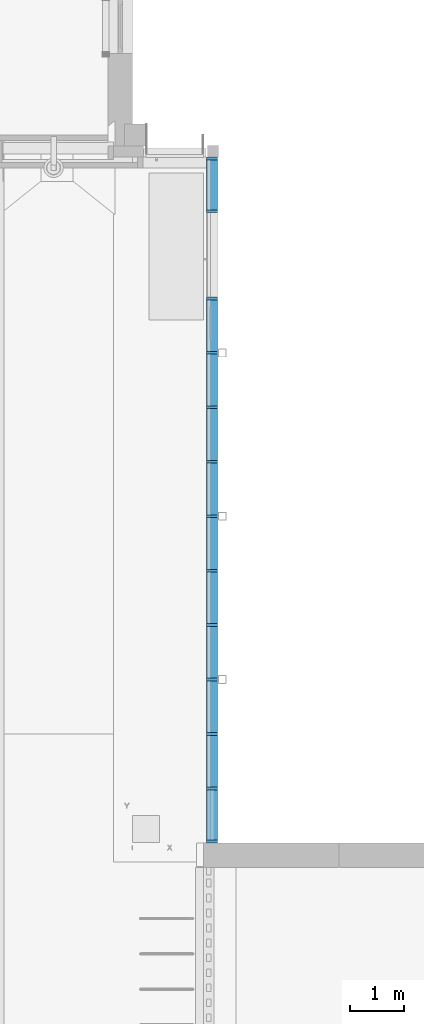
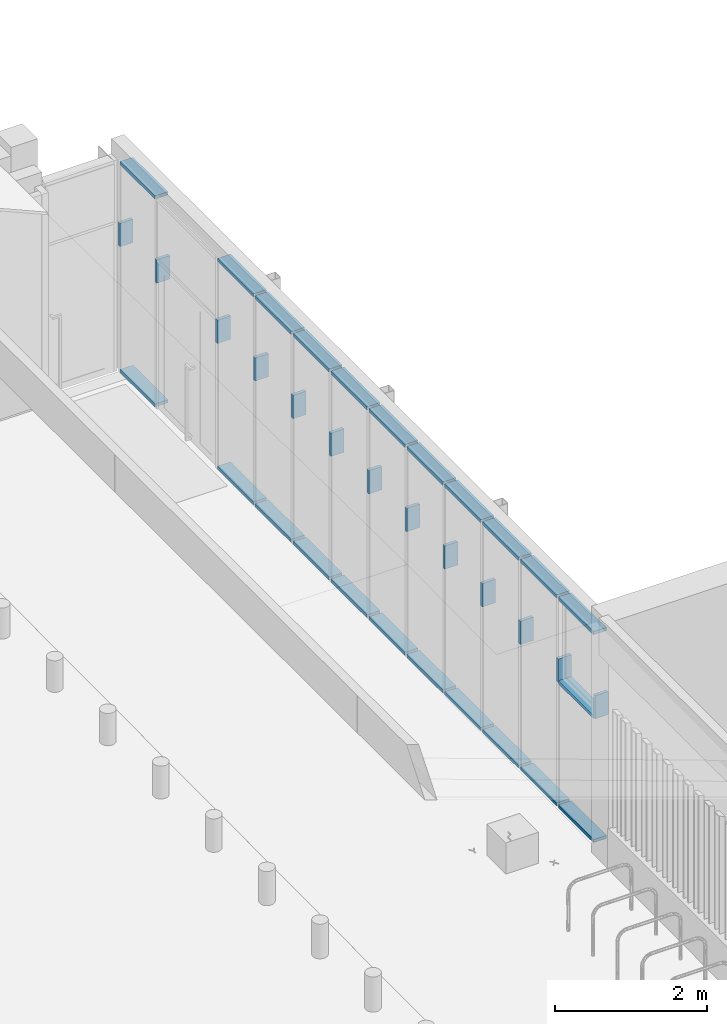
# One storey, part 7 of 77: 36 members, 1 element without a shape of its own.
"""IFC2X3 building model written with IfcOpenShell, lengths in millimetres."""

from ifc_helpers import new_model, entity, si_unit, converted_unit, derived_unit, direction, frame, origin, origin_2d_with_axis, place, context, subcontext, project, spatial, rectangle, extrude, source, transform, mapped, material, type_object, type_shapes, element, aggregate, save


model = new_model("IFC2X3")

# Units and contexts
model_context = context("Model", 3, precision=0.01, world=origin(), true_north=direction((6.12303176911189e-17, 1.0)))
body_context = subcontext(model_context, "Body", "Model", "MODEL_VIEW")
ifc_project = project(units=[si_unit("LENGTHUNIT", "METRE", prefix="MILLI"), si_unit("AREAUNIT", "SQUARE_METRE"), si_unit("VOLUMEUNIT", "CUBIC_METRE"), converted_unit("PLANEANGLEUNIT", "DEGREE", entity("IfcRatioMeasure", 0.0174532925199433), si_unit("PLANEANGLEUNIT", "RADIAN"), dimensions=[0, 0, 0, 0, 0, 0, 0]), si_unit("MASSUNIT", "GRAM", prefix="KILO"), derived_unit("MASSDENSITYUNIT", [(si_unit("MASSUNIT", "GRAM", prefix="KILO"), 1), (si_unit("LENGTHUNIT", "METRE"), -3)]), si_unit("TIMEUNIT", "SECOND"), si_unit("FREQUENCYUNIT", "HERTZ"), si_unit("THERMODYNAMICTEMPERATUREUNIT", "DEGREE_CELSIUS"), derived_unit("THERMALTRANSMITTANCEUNIT", [(si_unit("MASSUNIT", "GRAM", prefix="KILO"), 1), (si_unit("THERMODYNAMICTEMPERATUREUNIT", "KELVIN"), -1), (si_unit("TIMEUNIT", "SECOND"), -3)]), derived_unit("VOLUMETRICFLOWRATEUNIT", [(si_unit("LENGTHUNIT", "METRE"), 3), (si_unit("TIMEUNIT", "SECOND"), -1)]), si_unit("ELECTRICCURRENTUNIT", "AMPERE"), si_unit("ELECTRICVOLTAGEUNIT", "VOLT"), si_unit("POWERUNIT", "WATT"), si_unit("FORCEUNIT", "NEWTON", prefix="KILO"), si_unit("ILLUMINANCEUNIT", "LUX"), si_unit("LUMINOUSFLUXUNIT", "LUMEN"), si_unit("LUMINOUSINTENSITYUNIT", "CANDELA"), derived_unit("USERDEFINED", [(si_unit("MASSUNIT", "GRAM", prefix="KILO"), -1), (si_unit("LENGTHUNIT", "METRE"), -2), (si_unit("TIMEUNIT", "SECOND"), 3), (si_unit("LUMINOUSFLUXUNIT", "LUMEN"), 1)]), derived_unit("LINEARVELOCITYUNIT", [(si_unit("LENGTHUNIT", "METRE"), 1), (si_unit("TIMEUNIT", "SECOND"), -1)]), si_unit("PRESSUREUNIT", "PASCAL"), derived_unit("USERDEFINED", [(si_unit("LENGTHUNIT", "METRE"), -2), (si_unit("MASSUNIT", "GRAM", prefix="KILO"), 1), (si_unit("TIMEUNIT", "SECOND"), -2)])], contexts=[model_context])

# Site, building, storey
site_placement = place(None, origin())
site = spatial("IfcSite", under=ifc_project, at=site_placement, Name="Default", CompositionType="ELEMENT")
building_placement = place(site_placement, origin())
building = spatial("IfcBuilding", under=site, at=building_placement, CompositionType="ELEMENT")
storey_placement = place(building_placement, origin())
storey = spatial("IfcBuildingStorey", under=building, at=storey_placement, Name="1. KORRUS", CompositionType="ELEMENT", Elevation=0.0)

# Curtain wall, members
curtain_wall_type = type_object("IfcCurtainWallType", Name="Curtain Wall:KF01", PredefinedType="NOTDEFINED")
curtain_wall_placement = place(storey_placement, origin())
curtain_wall = element("IfcCurtainWall", 1, at=curtain_wall_placement, inside=storey, type_object=curtain_wall_type, Name="Curtain Wall:KF01", ObjectType="Curtain Wall:KF01")
ifc_material = material(Name="Default New Material-al-profiilid")
member_type_1 = type_object("IfcMemberType", Name="50x200mm", PredefinedType="MEMBER")
shared_shape_1 = source(origin(), body_context, "Body", "SweptSolid", [
    extrude(rectangle(XDim=200.0, YDim=50.0, at=origin_2d_with_axis()), frame((-25.0, 0.0, -920.0), z_axis=(0.0, 0.0, 1.0), x_axis=(0.0, -1.0, 0.0)), (0.0, 0.0, 1.0), 919.999999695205),
])
type_shapes(member_type_1, [shared_shape_1])
member_1_placement = place(storey_placement, frame((1460.00453708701, 12545.0, 3400.0), z_axis=(0.0, 1.0, 0.0), x_axis=(0.0, 0.0, 1.0)))
member_1 = element("IfcMember", 2, at=member_1_placement, type_object=member_type_1, material=ifc_material, Name="Rectangular Mullion:50x200mm", ObjectType="50x200mm", context=body_context, shape_type="MappedRepresentation", body=[
    mapped(shared_shape_1, transform((0.0, 0.0, 0.0), scale=1.0)),
])
member_type_2 = type_object("IfcMemberType", Name="50x200mm", PredefinedType="MEMBER")
shared_shape_2 = source(origin(), body_context, "Body", "SweptSolid", [
    extrude(rectangle(XDim=200.0, YDim=50.0, at=origin_2d_with_axis()), frame((-25.0, 0.0, -925.0), z_axis=(0.0, 0.0, 1.0), x_axis=(0.0, -1.0, 0.0)), (0.0, 0.0, 1.0), 925.000000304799),
])
type_shapes(member_type_2, [shared_shape_2])
member_2_placement = place(storey_placement, frame((1460.004537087, 50.0, 0.0), z_axis=(0.0, -1.0, 0.0), x_axis=(0.0, 0.0, -1.0)))
member_2 = element("IfcMember", 3, at=member_2_placement, type_object=member_type_2, material=ifc_material, Name="Rectangular Mullion:50x200mm", ObjectType="50x200mm", context=body_context, shape_type="MappedRepresentation", body=[
    mapped(shared_shape_2, transform((0.0, 0.0, 0.0), scale=1.0)),
])
member_type_3 = type_object("IfcMemberType", Name="50x200mm", PredefinedType="MEMBER")
shared_shape_3 = source(origin(), body_context, "Body", "SweptSolid", [
    extrude(rectangle(XDim=200.0, YDim=50.0, at=origin_2d_with_axis()), frame((-25.0, 0.0, -950.0), z_axis=(0.0, 0.0, 1.0), x_axis=(0.0, -1.0, 0.0)), (0.0, 0.0, 1.0), 950.0),
])
type_shapes(member_type_3, [shared_shape_3])
member_3_placement = place(storey_placement, frame((1460.004537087, 4025.0, 0.0), z_axis=(0.0, -1.0, 0.0), x_axis=(0.0, 0.0, -1.0)))
member_3 = element("IfcMember", 4, at=member_3_placement, type_object=member_type_3, material=ifc_material, Name="Rectangular Mullion:50x200mm", ObjectType="50x200mm", context=body_context, shape_type="MappedRepresentation", body=[
    mapped(shared_shape_3, transform((0.0, 0.0, 0.0), scale=1.0)),
])
member_4_placement = place(storey_placement, frame((1460.004537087, 5025.0, 0.0), z_axis=(0.0, -1.0, 0.0), x_axis=(0.0, 0.0, -1.0)))
member_4 = element("IfcMember", 5, at=member_4_placement, type_object=member_type_3, material=ifc_material, Name="Rectangular Mullion:50x200mm", ObjectType="50x200mm", context=body_context, shape_type="MappedRepresentation", body=[
    mapped(shared_shape_3, transform((0.0, 0.0, 0.0), scale=1.0)),
])
member_5_placement = place(storey_placement, frame((1460.004537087, 6025.0, 0.0), z_axis=(0.0, -1.0, 0.0), x_axis=(0.0, 0.0, -1.0)))
member_5 = element("IfcMember", 6, at=member_5_placement, type_object=member_type_3, material=ifc_material, Name="Rectangular Mullion:50x200mm", ObjectType="50x200mm", context=body_context, shape_type="MappedRepresentation", body=[
    mapped(shared_shape_3, transform((0.0, 0.0, 0.0), scale=1.0)),
])
member_6_placement = place(storey_placement, frame((1460.004537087, 7025.0, 0.0), z_axis=(0.0, -1.0, 0.0), x_axis=(0.0, 0.0, -1.0)))
member_6 = element("IfcMember", 7, at=member_6_placement, type_object=member_type_3, material=ifc_material, Name="Rectangular Mullion:50x200mm", ObjectType="50x200mm", context=body_context, shape_type="MappedRepresentation", body=[
    mapped(shared_shape_3, transform((0.0, 0.0, 0.0), scale=1.0)),
])
member_7_placement = place(storey_placement, frame((1460.00453708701, 8025.0, 0.0), z_axis=(0.0, -1.0, 0.0), x_axis=(0.0, 0.0, -1.0)))
member_7 = element("IfcMember", 8, at=member_7_placement, type_object=member_type_3, material=ifc_material, Name="Rectangular Mullion:50x200mm", ObjectType="50x200mm", context=body_context, shape_type="MappedRepresentation", body=[
    mapped(shared_shape_3, transform((0.0, 0.0, 0.0), scale=1.0)),
])
member_8_placement = place(storey_placement, frame((1460.00453708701, 9025.0, 0.0), z_axis=(0.0, -1.0, 0.0), x_axis=(0.0, 0.0, -1.0)))
member_8 = element("IfcMember", 9, at=member_8_placement, type_object=member_type_3, material=ifc_material, Name="Rectangular Mullion:50x200mm", ObjectType="50x200mm", context=body_context, shape_type="MappedRepresentation", body=[
    mapped(shared_shape_3, transform((0.0, 0.0, 0.0), scale=1.0)),
])
member_9_placement = place(storey_placement, frame((1460.004537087, 3025.0, 0.0), z_axis=(0.0, -1.0, 0.0), x_axis=(0.0, 0.0, -1.0)))
member_9 = element("IfcMember", 10, at=member_9_placement, type_object=member_type_3, material=ifc_material, Name="Rectangular Mullion:50x200mm", ObjectType="50x200mm", context=body_context, shape_type="MappedRepresentation", body=[
    mapped(shared_shape_3, transform((0.0, 0.0, 0.0), scale=1.0)),
])
member_10_placement = place(storey_placement, frame((1460.004537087, 2025.0, 0.0), z_axis=(0.0, -1.0, 0.0), x_axis=(0.0, 0.0, -1.0)))
member_10 = element("IfcMember", 11, at=member_10_placement, type_object=member_type_3, material=ifc_material, Name="Rectangular Mullion:50x200mm", ObjectType="50x200mm", context=body_context, shape_type="MappedRepresentation", body=[
    mapped(shared_shape_3, transform((0.0, 0.0, 0.0), scale=1.0)),
])
member_11_placement = place(storey_placement, frame((1460.004537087, 1025.0, 0.0), z_axis=(0.0, -1.0, 0.0), x_axis=(0.0, 0.0, -1.0)))
member_11 = element("IfcMember", 12, at=member_11_placement, type_object=member_type_3, material=ifc_material, Name="Rectangular Mullion:50x200mm", ObjectType="50x200mm", context=body_context, shape_type="MappedRepresentation", body=[
    mapped(shared_shape_3, transform((0.0, 0.0, 0.0), scale=1.0)),
])
member_type_4 = type_object("IfcMemberType", Name="50x200mm", PredefinedType="MEMBER")
shared_shape_4 = source(origin(), body_context, "Body", "SweptSolid", [
    extrude(rectangle(XDim=200.0, YDim=50.0, at=origin_2d_with_axis()), frame((-25.0, 0.0, -950.0), z_axis=(0.0, 0.0, 1.0), x_axis=(0.0, -1.0, 0.0)), (0.0, 0.0, 1.0), 950.0),
])
type_shapes(member_type_4, [shared_shape_4])
member_12_placement = place(storey_placement, frame((1460.004537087, 3975.0, 3400.0), z_axis=(0.0, 1.0, 0.0), x_axis=(0.0, 0.0, 1.0)))
member_12 = element("IfcMember", 13, at=member_12_placement, type_object=member_type_4, material=ifc_material, Name="Rectangular Mullion:50x200mm", ObjectType="50x200mm", context=body_context, shape_type="MappedRepresentation", body=[
    mapped(shared_shape_4, transform((0.0, 0.0, 0.0), scale=1.0)),
])
member_13_placement = place(storey_placement, frame((1460.004537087, 4975.0, 3400.0), z_axis=(0.0, 1.0, 0.0), x_axis=(0.0, 0.0, 1.0)))
member_13 = element("IfcMember", 14, at=member_13_placement, type_object=member_type_4, material=ifc_material, Name="Rectangular Mullion:50x200mm", ObjectType="50x200mm", context=body_context, shape_type="MappedRepresentation", body=[
    mapped(shared_shape_4, transform((0.0, 0.0, 0.0), scale=1.0)),
])
member_14_placement = place(storey_placement, frame((1460.004537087, 5975.0, 3400.0), z_axis=(0.0, 1.0, 0.0), x_axis=(0.0, 0.0, 1.0)))
member_14 = element("IfcMember", 15, at=member_14_placement, type_object=member_type_4, material=ifc_material, Name="Rectangular Mullion:50x200mm", ObjectType="50x200mm", context=body_context, shape_type="MappedRepresentation", body=[
    mapped(shared_shape_4, transform((0.0, 0.0, 0.0), scale=1.0)),
])
member_15_placement = place(storey_placement, frame((1460.004537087, 6975.0, 3400.0), z_axis=(0.0, 1.0, 0.0), x_axis=(0.0, 0.0, 1.0)))
member_15 = element("IfcMember", 16, at=member_15_placement, type_object=member_type_4, material=ifc_material, Name="Rectangular Mullion:50x200mm", ObjectType="50x200mm", context=body_context, shape_type="MappedRepresentation", body=[
    mapped(shared_shape_4, transform((0.0, 0.0, 0.0), scale=1.0)),
])
member_16_placement = place(storey_placement, frame((1460.00453708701, 7975.0, 3400.0), z_axis=(0.0, 1.0, 0.0), x_axis=(0.0, 0.0, 1.0)))
member_16 = element("IfcMember", 17, at=member_16_placement, type_object=member_type_4, material=ifc_material, Name="Rectangular Mullion:50x200mm", ObjectType="50x200mm", context=body_context, shape_type="MappedRepresentation", body=[
    mapped(shared_shape_4, transform((0.0, 0.0, 0.0), scale=1.0)),
])
member_17_placement = place(storey_placement, frame((1460.00453708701, 8975.0, 3400.0), z_axis=(0.0, 1.0, 0.0), x_axis=(0.0, 0.0, 1.0)))
member_17 = element("IfcMember", 18, at=member_17_placement, type_object=member_type_4, material=ifc_material, Name="Rectangular Mullion:50x200mm", ObjectType="50x200mm", context=body_context, shape_type="MappedRepresentation", body=[
    mapped(shared_shape_4, transform((0.0, 0.0, 0.0), scale=1.0)),
])
member_18_placement = place(storey_placement, frame((1460.00453708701, 9975.0, 3400.0), z_axis=(0.0, 1.0, 0.0), x_axis=(0.0, 0.0, 1.0)))
member_18 = element("IfcMember", 19, at=member_18_placement, type_object=member_type_4, material=ifc_material, Name="Rectangular Mullion:50x200mm", ObjectType="50x200mm", context=body_context, shape_type="MappedRepresentation", body=[
    mapped(shared_shape_4, transform((0.0, 0.0, 0.0), scale=1.0)),
])
member_19_placement = place(storey_placement, frame((1460.004537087, 2975.0, 3400.0), z_axis=(0.0, 1.0, 0.0), x_axis=(0.0, 0.0, 1.0)))
member_19 = element("IfcMember", 20, at=member_19_placement, type_object=member_type_4, material=ifc_material, Name="Rectangular Mullion:50x200mm", ObjectType="50x200mm", context=body_context, shape_type="MappedRepresentation", body=[
    mapped(shared_shape_4, transform((0.0, 0.0, 0.0), scale=1.0)),
])
member_20_placement = place(storey_placement, frame((1460.004537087, 1975.0, 3400.0), z_axis=(0.0, 1.0, 0.0), x_axis=(0.0, 0.0, 1.0)))
member_20 = element("IfcMember", 21, at=member_20_placement, type_object=member_type_4, material=ifc_material, Name="Rectangular Mullion:50x200mm", ObjectType="50x200mm", context=body_context, shape_type="MappedRepresentation", body=[
    mapped(shared_shape_4, transform((0.0, 0.0, 0.0), scale=1.0)),
])
member_type_5 = type_object("IfcMemberType", Name="50x200mm", PredefinedType="MEMBER")
shared_shape_5 = source(origin(), body_context, "Body", "SweptSolid", [
    extrude(rectangle(XDim=200.0, YDim=50.0, at=origin_2d_with_axis()), frame((-25.0, 0.0, -920.0), z_axis=(0.0, 0.0, 1.0), x_axis=(0.0, -1.0, 0.0)), (0.0, 0.0, 1.0), 919.999999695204),
])
type_shapes(member_type_5, [shared_shape_5])
member_21_placement = place(storey_placement, frame((1460.00453708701, 11625.0, 0.0), z_axis=(0.0, -1.0, 0.0), x_axis=(0.0, 0.0, -1.0)))
member_21 = element("IfcMember", 22, at=member_21_placement, type_object=member_type_5, material=ifc_material, Name="Rectangular Mullion:50x200mm", ObjectType="50x200mm", context=body_context, shape_type="MappedRepresentation", body=[
    mapped(shared_shape_5, transform((0.0, 0.0, 0.0), scale=1.0)),
])
member_type_6 = type_object("IfcMemberType", Name="50x200mm", PredefinedType="MEMBER")
shared_shape_6 = source(origin(), body_context, "Body", "SweptSolid", [
    extrude(rectangle(XDim=200.0, YDim=50.0, at=origin_2d_with_axis()), frame((-25.0, 0.0, -375.0), z_axis=(0.0, 0.0, 1.0), x_axis=(0.0, -1.0, 0.0)), (0.0, 0.0, 1.0), 375.0),
])
type_shapes(member_type_6, [shared_shape_6])
member_22_placement = place(storey_placement, frame((1460.004537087, 0.0, 2400.0), z_axis=(0.0, 0.0, 1.0), x_axis=(0.0, -1.0, 0.0)))
member_22 = element("IfcMember", 23, at=member_22_placement, type_object=member_type_6, material=ifc_material, Name="Rectangular Mullion:50x200mm", ObjectType="50x200mm", context=body_context, shape_type="MappedRepresentation", body=[
    mapped(shared_shape_6, transform((0.0, 0.0, 0.0), scale=1.0)),
])
member_type_7 = type_object("IfcMemberType", Name="50x200mm", PredefinedType="MEMBER")
shared_shape_7 = source(origin(), body_context, "Body", "SweptSolid", [
    extrude(rectangle(XDim=200.0, YDim=50.0, at=origin_2d_with_axis()), frame((-25.0, 0.0, -925.0), z_axis=(0.0, 0.0, 1.0), x_axis=(0.0, -1.0, 0.0)), (0.0, 0.0, 1.0), 925.000000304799),
])
type_shapes(member_type_7, [shared_shape_7])
member_23_placement = place(storey_placement, frame((1460.004537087, 975.0, 3400.0), z_axis=(0.0, 1.0, 0.0), x_axis=(0.0, 0.0, 1.0)))
member_23 = element("IfcMember", 24, at=member_23_placement, type_object=member_type_7, material=ifc_material, Name="Rectangular Mullion:50x200mm", ObjectType="50x200mm", context=body_context, shape_type="MappedRepresentation", body=[
    mapped(shared_shape_7, transform((0.0, 0.0, 0.0), scale=1.0)),
])
member_type_8 = type_object("IfcMemberType", Name="50x200mm", PredefinedType="MEMBER")
shared_shape_8 = source(origin(), body_context, "Body", "SweptSolid", [
    extrude(rectangle(XDim=200.0, YDim=50.0, at=origin_2d_with_axis()), frame((-25.0, 0.0, -375.0), z_axis=(0.0, 0.0, 1.0), x_axis=(0.0, -1.0, 0.0)), (0.0, 0.0, 1.0), 375.0),
])
type_shapes(member_type_8, [shared_shape_8])
member_24_placement = place(storey_placement, frame((1460.00453708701, 12595.0, 2025.0), z_axis=(0.0, 0.0, -1.0), x_axis=(0.0, 1.0, 0.0)))
member_24 = element("IfcMember", 25, at=member_24_placement, type_object=member_type_8, material=ifc_material, Name="Rectangular Mullion:50x200mm", ObjectType="50x200mm", context=body_context, shape_type="MappedRepresentation", body=[
    mapped(shared_shape_8, transform((0.0, 0.0, 0.0), scale=1.0)),
])
member_type_9 = type_object("IfcMemberType", Name="50x200mm", PredefinedType="MEMBER")
shared_shape_9 = source(origin(), body_context, "Body", "SweptSolid", [
    extrude(rectangle(XDim=200.0, YDim=50.0, at=origin_2d_with_axis()), frame((0.0, 0.0, -375.0), z_axis=(0.0, 0.0, 1.0), x_axis=(0.0, -1.0, 0.0)), (0.0, 0.0, 1.0), 375.0),
])
type_shapes(member_type_9, [shared_shape_9])
member_25_placement = place(storey_placement, frame((1460.004537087, 4000.0, 2025.0), z_axis=(0.0, 0.0, -1.0), x_axis=(0.0, 1.0, 0.0)))
member_25 = element("IfcMember", 26, at=member_25_placement, type_object=member_type_9, material=ifc_material, Name="Rectangular Mullion:50x200mm", ObjectType="50x200mm", context=body_context, shape_type="MappedRepresentation", body=[
    mapped(shared_shape_9, transform((0.0, 0.0, 0.0), scale=1.0)),
])
member_26_placement = place(storey_placement, frame((1460.004537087, 5000.0, 2025.0), z_axis=(0.0, 0.0, -1.0), x_axis=(0.0, 1.0, 0.0)))
member_26 = element("IfcMember", 27, at=member_26_placement, type_object=member_type_9, material=ifc_material, Name="Rectangular Mullion:50x200mm", ObjectType="50x200mm", context=body_context, shape_type="MappedRepresentation", body=[
    mapped(shared_shape_9, transform((0.0, 0.0, 0.0), scale=1.0)),
])
member_27_placement = place(storey_placement, frame((1460.004537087, 6000.0, 2025.0), z_axis=(0.0, 0.0, -1.0), x_axis=(0.0, 1.0, 0.0)))
member_27 = element("IfcMember", 28, at=member_27_placement, type_object=member_type_9, material=ifc_material, Name="Rectangular Mullion:50x200mm", ObjectType="50x200mm", context=body_context, shape_type="MappedRepresentation", body=[
    mapped(shared_shape_9, transform((0.0, 0.0, 0.0), scale=1.0)),
])
member_28_placement = place(storey_placement, frame((1460.004537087, 7000.0, 2025.0), z_axis=(0.0, 0.0, -1.0), x_axis=(0.0, 1.0, 0.0)))
member_28 = element("IfcMember", 29, at=member_28_placement, type_object=member_type_9, material=ifc_material, Name="Rectangular Mullion:50x200mm", ObjectType="50x200mm", context=body_context, shape_type="MappedRepresentation", body=[
    mapped(shared_shape_9, transform((0.0, 0.0, 0.0), scale=1.0)),
])
member_29_placement = place(storey_placement, frame((1460.00453708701, 9000.0, 2025.0), z_axis=(0.0, 0.0, -1.0), x_axis=(0.0, 1.0, 0.0)))
member_29 = element("IfcMember", 30, at=member_29_placement, type_object=member_type_9, material=ifc_material, Name="Rectangular Mullion:50x200mm", ObjectType="50x200mm", context=body_context, shape_type="MappedRepresentation", body=[
    mapped(shared_shape_9, transform((0.0, 0.0, 0.0), scale=1.0)),
])
member_30_placement = place(storey_placement, frame((1460.00453708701, 8000.0, 2025.0), z_axis=(0.0, 0.0, -1.0), x_axis=(0.0, 1.0, 0.0)))
member_30 = element("IfcMember", 31, at=member_30_placement, type_object=member_type_9, material=ifc_material, Name="Rectangular Mullion:50x200mm", ObjectType="50x200mm", context=body_context, shape_type="MappedRepresentation", body=[
    mapped(shared_shape_9, transform((0.0, 0.0, 0.0), scale=1.0)),
])
member_31_placement = place(storey_placement, frame((1460.004537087, 3000.0, 2025.0), z_axis=(0.0, 0.0, -1.0), x_axis=(0.0, 1.0, 0.0)))
member_31 = element("IfcMember", 32, at=member_31_placement, type_object=member_type_9, material=ifc_material, Name="Rectangular Mullion:50x200mm", ObjectType="50x200mm", context=body_context, shape_type="MappedRepresentation", body=[
    mapped(shared_shape_9, transform((0.0, 0.0, 0.0), scale=1.0)),
])
member_32_placement = place(storey_placement, frame((1460.004537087, 2000.0, 2025.0), z_axis=(0.0, 0.0, -1.0), x_axis=(0.0, 1.0, 0.0)))
member_32 = element("IfcMember", 33, at=member_32_placement, type_object=member_type_9, material=ifc_material, Name="Rectangular Mullion:50x200mm", ObjectType="50x200mm", context=body_context, shape_type="MappedRepresentation", body=[
    mapped(shared_shape_9, transform((0.0, 0.0, 0.0), scale=1.0)),
])
member_type_10 = type_object("IfcMemberType", Name="50x200mm", PredefinedType="MEMBER")
shared_shape_10 = source(origin(), body_context, "Body", "SweptSolid", [
    extrude(rectangle(XDim=200.0, YDim=50.0, at=origin_2d_with_axis()), frame((0.0, 0.0, -375.0), z_axis=(0.0, 0.0, 1.0), x_axis=(0.0, -1.0, 0.0)), (0.0, 0.0, 1.0), 375.0),
])
type_shapes(member_type_10, [shared_shape_10])
member_33_placement = place(storey_placement, frame((1460.00453708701, 10000.0, 2025.0), z_axis=(0.0, 0.0, -1.0), x_axis=(0.0, 1.0, 0.0)))
member_33 = element("IfcMember", 34, at=member_33_placement, type_object=member_type_10, material=ifc_material, Name="Rectangular Mullion:50x200mm", ObjectType="50x200mm", context=body_context, shape_type="MappedRepresentation", body=[
    mapped(shared_shape_10, transform((0.0, 0.0, 0.0), scale=1.0)),
])
member_34_placement = place(storey_placement, frame((1460.00453708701, 11600.0, 2025.0), z_axis=(0.0, 0.0, -1.0), x_axis=(0.0, 1.0, 0.0)))
member_34 = element("IfcMember", 35, at=member_34_placement, type_object=member_type_10, material=ifc_material, Name="Rectangular Mullion:50x200mm", ObjectType="50x200mm", context=body_context, shape_type="MappedRepresentation", body=[
    mapped(shared_shape_10, transform((0.0, 0.0, 0.0), scale=1.0)),
])
member_type_11 = type_object("IfcMemberType", Name="50x200mm", PredefinedType="MEMBER")
shared_shape_11 = source(origin(), body_context, "Body", "SweptSolid", [
    extrude(rectangle(XDim=200.0, YDim=50.0, at=origin_2d_with_axis()), frame((0.0, 0.0, -375.0), z_axis=(0.0, 0.0, 1.0), x_axis=(0.0, -1.0, 0.0)), (0.0, 0.0, 1.0), 375.0),
])
type_shapes(member_type_11, [shared_shape_11])
member_35_placement = place(storey_placement, frame((1460.004537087, 1000.0, 2025.0), z_axis=(0.0, 0.0, -1.0), x_axis=(0.0, 1.0, 0.0)))
member_35 = element("IfcMember", 36, at=member_35_placement, type_object=member_type_11, material=ifc_material, Name="Rectangular Mullion:50x200mm", ObjectType="50x200mm", context=body_context, shape_type="MappedRepresentation", body=[
    mapped(shared_shape_11, transform((0.0, 0.0, 0.0), scale=1.0)),
])
member_type_12 = type_object("IfcMemberType", Name="50x200mm", PredefinedType="MEMBER")
shared_shape_12 = source(origin(), body_context, "Body", "SweptSolid", [
    extrude(rectangle(XDim=200.0, YDim=50.0, at=origin_2d_with_axis()), frame((0.0, 0.0, -925.0), z_axis=(0.0, 0.0, 1.0), x_axis=(0.0, -1.0, 0.0)), (0.0, 0.0, 1.0), 925.000000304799),
])
type_shapes(member_type_12, [shared_shape_12])
member_36_placement = place(storey_placement, frame((1460.004537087, 975.0, 2025.0), z_axis=(0.0, 1.0, 0.0), x_axis=(0.0, 0.0, 1.0)))
member_36 = element("IfcMember", 37, at=member_36_placement, type_object=member_type_12, material=ifc_material, Name="Rectangular Mullion:50x200mm", ObjectType="50x200mm", context=body_context, shape_type="MappedRepresentation", body=[
    mapped(shared_shape_12, transform((0.0, 0.0, 0.0), scale=1.0)),
])
aggregate(curtain_wall, [member_1, member_2, member_3, member_4, member_5, member_6, member_7, member_8, member_12, member_13, member_14, member_15, member_16, member_17, member_21, member_18, member_22, member_9, member_19, member_10, member_20, member_11, member_23, member_24, member_25, member_26, member_27, member_28, member_29, member_33, member_30, member_34, member_31, member_32, member_35, member_36])

save(model, "model.ifc")
